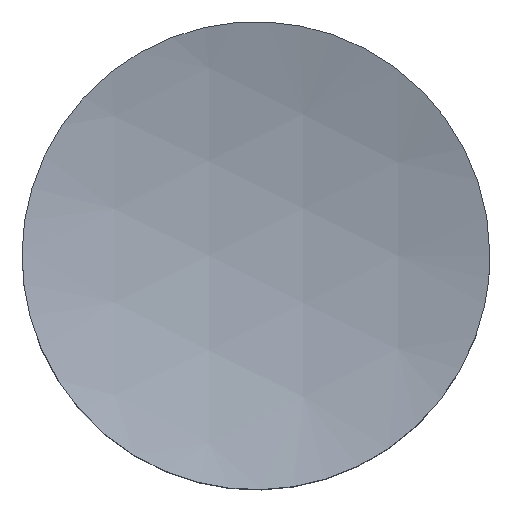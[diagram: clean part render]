
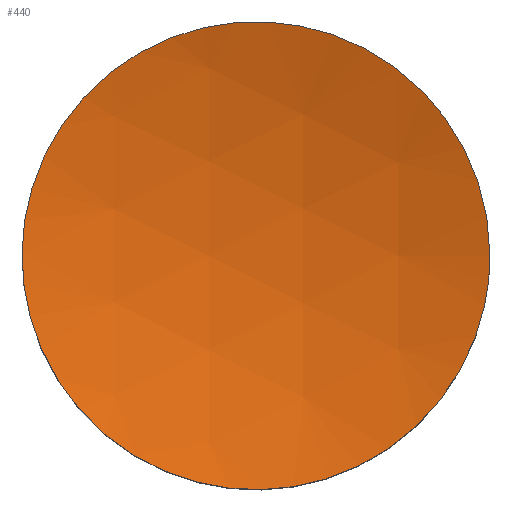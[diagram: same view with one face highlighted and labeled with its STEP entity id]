
A CAD part, top view. The second image highlights one B-rep face of the part: STEP entity #440.
In plain terms, the highlighted spherical face has radius 3.5 mm.
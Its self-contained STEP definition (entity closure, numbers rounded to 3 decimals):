
#230 = CARTESIAN_POINT ('', (1., 0., -51.554));
#240 = VERTEX_POINT ('', #230);
#250 = CARTESIAN_POINT ('', (1., 0., -51.554));
#260 = CARTESIAN_POINT ('', (1., 1., -51.554));
#270 = CARTESIAN_POINT ('', (0., 1., -51.554));
#280 = CARTESIAN_POINT ('', (-1., 1., -51.554));
#290 = CARTESIAN_POINT ('', (-1., 0., -51.554));
#300 = CARTESIAN_POINT ('', (-1., -1., -51.554));
#310 = CARTESIAN_POINT ('', (0., -1., -51.554));
#320 = CARTESIAN_POINT ('', (1., -1., -51.554));
#330 = CARTESIAN_POINT ('', (1., 0., -51.554));
#340 = (
   BOUNDED_CURVE ()
   B_SPLINE_CURVE (2, (#250, #260, #270, #280, #290, #300, #310, #320, #330), .UNSPECIFIED., .T., .U.)
   B_SPLINE_CURVE_WITH_KNOTS ((3, 2, 2, 2, 3), (0., 1.571, 3.142, 4.712, 6.283), .UNSPECIFIED.)
   CURVE ()
   GEOMETRIC_REPRESENTATION_ITEM ()
   RATIONAL_B_SPLINE_CURVE ((1., 0.707, 1., 0.707, 1., 0.707, 1., 0.707, 1.))
   REPRESENTATION_ITEM ('')
);
#350 = EDGE_CURVE ('', #240, #240, #340, .T.);
#360 = ORIENTED_EDGE ('', *, *, #350, .T.);
#370 = EDGE_LOOP ('', (#360));
#380 = FACE_OUTER_BOUND ('', #370, .T.);
#390 = CARTESIAN_POINT ('', (0., 0., -48.2));
#400 = DIRECTION ('', (-1., 0., 0.));
#410 = DIRECTION ('', (0., 1., 0.));
#420 = AXIS2_PLACEMENT_3D ('', #390, #400, #410);
#430 = SPHERICAL_SURFACE ('', #420, 3.5);
#440 = ADVANCED_FACE ('', (#380), #430, .F.);
